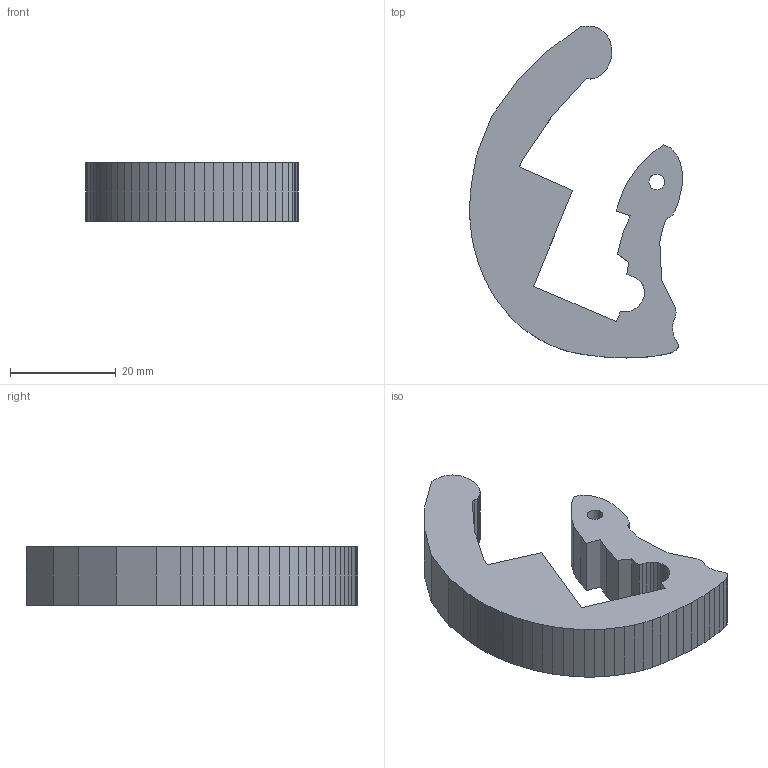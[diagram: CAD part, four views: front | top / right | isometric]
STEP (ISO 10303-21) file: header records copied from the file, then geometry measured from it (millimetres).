
FILE_DESCRIPTION((''),'2;1');
FILE_NAME('C:\MRFR\SHOCK\Hexen\STP\trigger.stp','2013-08-15T20:15:26',('mrfr'),(''),'Autodesk Inventor 2013','Autodesk Inventor 2013','');
FILE_SCHEMA(('AUTOMOTIVE_DESIGN { 1 0 10303 214 1 1 1 1 }'));
Length unit declared in the file: millimetre
Products named in the file (1): trigger
Bounding box: 40.26 x 62.82 x 11 mm (x, y, z)
Volume: 12423.1 mm3; surface area: 5349.4 mm2
Topology: 1 solids, 1 shells, 133 faces, 393 edges, 262 vertices
Faces by surface type: plane 129, cylinder 4
Full cylindrical faces by diameter (mm): 3 x1
Entity records: 4380 total; most frequent: CARTESIAN_POINT 788, ORIENTED_EDGE 784, DIRECTION 668, EDGE_CURVE 392, VECTOR 384, LINE 384, VERTEX_POINT 262, AXIS2_PLACEMENT_3D 142
